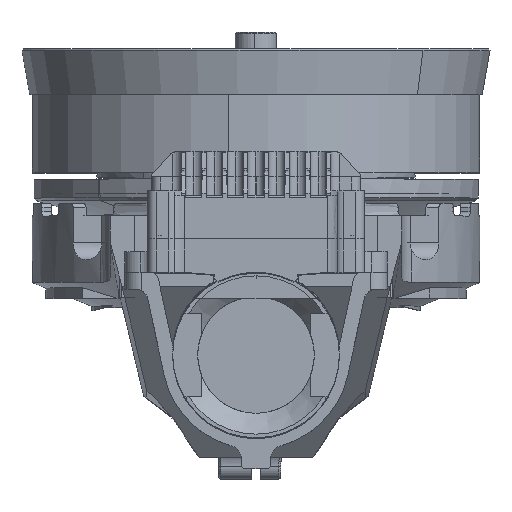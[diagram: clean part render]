
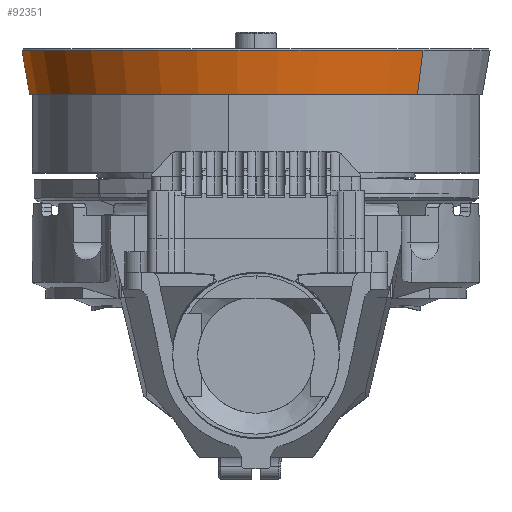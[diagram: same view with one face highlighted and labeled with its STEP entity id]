
A CAD part, top view. The second image highlights one B-rep face of the part: STEP entity #92351.
In plain terms, the highlighted conical face has half-angle 10 degrees and reference radius 56.44 mm.
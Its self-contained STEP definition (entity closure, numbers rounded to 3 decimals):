
#3374 = CIRCLE ( 'NONE', #139406, 56.365 ) ;
#7471 = DIRECTION ( 'NONE',  ( -0.711, 0., -0.703 ) ) ;
#9565 = CARTESIAN_POINT ( 'NONE',  ( 38.767, 62.4, 83.306 ) ) ;
#10749 = AXIS2_PLACEMENT_3D ( 'NONE', #120702, #97593, #133388 ) ;
#12776 = CARTESIAN_POINT ( 'NONE',  ( 40.093, 72.975, 84.617 ) ) ;
#13462 = CARTESIAN_POINT ( 'NONE',  ( 0., 72.975, 45. ) ) ;
#24094 = VERTEX_POINT ( 'NONE', #33293 ) ;
#33293 = CARTESIAN_POINT ( 'NONE',  ( -38.767, 62.4, 6.694 ) ) ;
#45839 = DIRECTION ( 'NONE',  ( 0.711, 0., 0.703 ) ) ;
#49009 = VECTOR ( 'NONE', #99869, 1000. ) ;
#56449 = CARTESIAN_POINT ( 'NONE',  ( -40.093, 72.975, 5.383 ) ) ;
#57208 = LINE ( 'NONE', #109168, #83015 ) ;
#62650 = ORIENTED_EDGE ( 'NONE', *, *, #137074, .F. ) ;
#64021 = AXIS2_PLACEMENT_3D ( 'NONE', #151391, #126004, #7471 ) ;
#70783 = CIRCLE ( 'NONE', #10749, 54.5 ) ;
#78350 = ORIENTED_EDGE ( 'NONE', *, *, #149329, .T. ) ;
#83015 = VECTOR ( 'NONE', #94714, 1000. ) ;
#88574 = CONICAL_SURFACE ( 'NONE', #64021, 56.44, 0.175 ) ;
#92351 = ADVANCED_FACE ( 'NONE', ( #123502 ), #88574, .T. ) ;
#94714 = DIRECTION ( 'NONE',  ( -0.124, 0.985, -0.122 ) ) ;
#97593 = DIRECTION ( 'NONE',  ( 0., -1., 0. ) ) ;
#99869 = DIRECTION ( 'NONE',  ( 0.124, 0.985, 0.122 ) ) ;
#109168 = CARTESIAN_POINT ( 'NONE',  ( -40.146, 73.4, 5.33 ) ) ;
#113225 = VERTEX_POINT ( 'NONE', #9565 ) ;
#114253 = CARTESIAN_POINT ( 'NONE',  ( 40.146, 73.4, 84.67 ) ) ;
#117538 = DIRECTION ( 'NONE',  ( 0., -1., 0. ) ) ;
#120702 = CARTESIAN_POINT ( 'NONE',  ( 0., 62.4, 45. ) ) ;
#123149 = EDGE_LOOP ( 'NONE', ( #127707, #144591, #78350, #62650 ) ) ;
#123502 = FACE_OUTER_BOUND ( 'NONE', #123149, .T. ) ;
#126004 = DIRECTION ( 'NONE',  ( 0., 1., 0. ) ) ;
#126241 = LINE ( 'NONE', #114253, #49009 ) ;
#127707 = ORIENTED_EDGE ( 'NONE', *, *, #131313, .F. ) ;
#131313 = EDGE_CURVE ( 'NONE', #113225, #24094, #70783, .T. ) ;
#133388 = DIRECTION ( 'NONE',  ( 0.711, 0., 0.703 ) ) ;
#137074 = EDGE_CURVE ( 'NONE', #24094, #159093, #57208, .T. ) ;
#139406 = AXIS2_PLACEMENT_3D ( 'NONE', #13462, #117538, #45839 ) ;
#144591 = ORIENTED_EDGE ( 'NONE', *, *, #157755, .T. ) ;
#146319 = VERTEX_POINT ( 'NONE', #12776 ) ;
#149329 = EDGE_CURVE ( 'NONE', #146319, #159093, #3374, .T. ) ;
#151391 = CARTESIAN_POINT ( 'NONE',  ( 0., 73.4, 45. ) ) ;
#157755 = EDGE_CURVE ( 'NONE', #113225, #146319, #126241, .T. ) ;
#159093 = VERTEX_POINT ( 'NONE', #56449 ) ;
